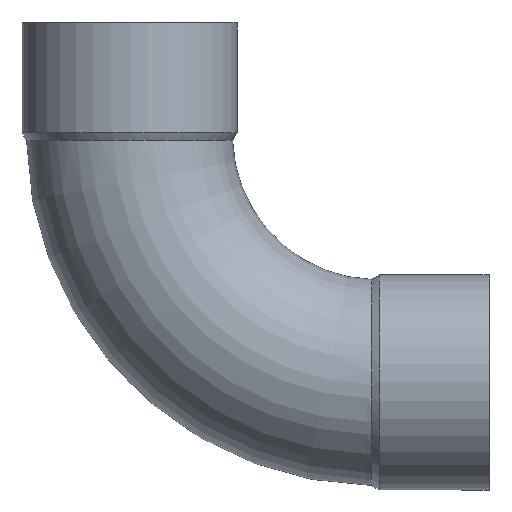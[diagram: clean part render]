
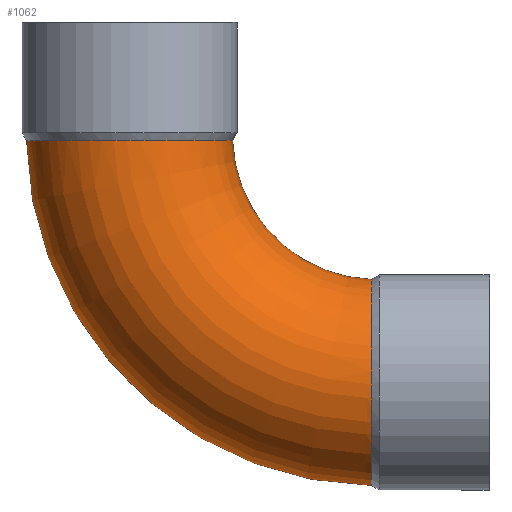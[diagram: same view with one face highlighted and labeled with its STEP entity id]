
A CAD part, front view. The second image highlights one B-rep face of the part: STEP entity #1062.
In plain terms, the highlighted toroidal (fillet/blend) face has major radius 76.8 mm and minor radius 32 mm.
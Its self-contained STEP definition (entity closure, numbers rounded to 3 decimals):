
#49=CARTESIAN_POINT('',(-86.753,0.,-1.621));
#50=VERTEX_POINT('',#49);
#51=CARTESIAN_POINT('',(20.414,0.,-108.788));
#52=VERTEX_POINT('',#51);
#53=CARTESIAN_POINT('',(22.035,0.,0.0));
#54=DIRECTION('',(0.0,-1.0,0.0));
#55=DIRECTION('',(0.0,0.0,-1.0));
#56=AXIS2_PLACEMENT_3D('',#53,#54,#55);
#57=CIRCLE('',#56,108.8);
#58=EDGE_CURVE('',#50,#52,#57,.T.);
#60=CARTESIAN_POINT('',(-22.738,0.,-1.553));
#61=VERTEX_POINT('',#60);
#85=CARTESIAN_POINT('',(20.482,0.,-44.773));
#86=VERTEX_POINT('',#85);
#87=CARTESIAN_POINT('',(22.035,0.,0.0));
#88=DIRECTION('',(0.0,1.0,0.0));
#89=DIRECTION('',(0.0,0.0,-1.0));
#90=AXIS2_PLACEMENT_3D('',#87,#88,#89);
#91=CIRCLE('',#90,44.8);
#92=EDGE_CURVE('',#86,#61,#91,.T.);
#226=CARTESIAN_POINT('',(-22.738,0.,-1.553));
#227=CARTESIAN_POINT('',(-22.738,-0.279,-1.553));
#228=CARTESIAN_POINT('',(-22.742,-0.558,-1.553));
#229=CARTESIAN_POINT('',(-22.858,-5.002,-1.554));
#230=CARTESIAN_POINT('',(-23.78,-9.105,-1.556));
#231=CARTESIAN_POINT('',(-27.145,-16.73,-1.563));
#232=CARTESIAN_POINT('',(-29.557,-20.177,-1.568));
#233=CARTESIAN_POINT('',(-35.568,-25.955,-1.578));
#234=CARTESIAN_POINT('',(-39.109,-28.229,-1.583));
#235=CARTESIAN_POINT('',(-46.863,-31.292,-1.592));
#236=CARTESIAN_POINT('',(-51.002,-32.052,-1.597));
#237=CARTESIAN_POINT('',(-59.338,-31.942,-1.604));
#238=CARTESIAN_POINT('',(-63.455,-31.074,-1.607));
#239=CARTESIAN_POINT('',(-71.123,-27.808,-1.612));
#240=CARTESIAN_POINT('',(-74.602,-25.443,-1.615));
#241=CARTESIAN_POINT('',(-80.456,-19.511,-1.618));
#242=CARTESIAN_POINT('',(-82.775,-16.002,-1.619));
#243=CARTESIAN_POINT('',(-85.939,-8.293,-1.621));
#244=CARTESIAN_POINT('',(-86.753,-4.166,-1.621));
#245=CARTESIAN_POINT('',(-86.753,0.,-1.621));
#246=B_SPLINE_CURVE_WITH_KNOTS('',3,(#226,#227,#228,#229,#230,#231,#232,#233,#234,#235,#236,#237,#238,#239,#240,#241,#242,#243,#244,#245),.UNSPECIFIED.,.F.,.U.,(4,2,2,2,2,2,2,2,2,4),(-10.086,-10.002,-8.752,-7.502,-6.251,-5.,-3.75,-2.5,-1.25,0.0),.UNSPECIFIED.);
#247=EDGE_CURVE('',#61,#50,#246,.T.);
#1029=CARTESIAN_POINT('',(22.035,0.,0.0));
#1030=DIRECTION('',(0.0,-1.0,0.0));
#1031=DIRECTION('',(0.0,0.0,-1.0));
#1032=AXIS2_PLACEMENT_3D('',#1029,#1030,#1031);
#1033=TOROIDAL_SURFACE('',#1032,76.8,32.0);
#1034=ORIENTED_EDGE('',*,*,#58,.T.);
#1035=CARTESIAN_POINT('',(20.414,0.,-108.788));
#1036=CARTESIAN_POINT('',(20.414,-2.359,-108.788));
#1037=CARTESIAN_POINT('',(20.414,-4.711,-108.527));
#1038=CARTESIAN_POINT('',(20.415,-9.314,-107.493));
#1039=CARTESIAN_POINT('',(20.415,-11.552,-106.723));
#1040=CARTESIAN_POINT('',(20.417,-17.451,-103.932));
#1041=CARTESIAN_POINT('',(20.418,-20.834,-101.431));
#1042=CARTESIAN_POINT('',(20.421,-26.45,-95.273));
#1043=CARTESIAN_POINT('',(20.424,-28.63,-91.675));
#1044=CARTESIAN_POINT('',(20.429,-31.489,-83.844));
#1045=CARTESIAN_POINT('',(20.432,-32.139,-79.686));
#1046=CARTESIAN_POINT('',(20.44,-31.811,-71.355));
#1047=CARTESIAN_POINT('',(20.445,-30.834,-67.261));
#1048=CARTESIAN_POINT('',(20.454,-27.367,-59.679));
#1049=CARTESIAN_POINT('',(20.459,-24.91,-56.263));
#1050=CARTESIAN_POINT('',(20.469,-18.827,-50.567));
#1051=CARTESIAN_POINT('',(20.474,-15.259,-48.34));
#1052=CARTESIAN_POINT('',(20.48,-7.732,-45.48));
#1053=CARTESIAN_POINT('',(20.482,-3.881,-44.773));
#1054=CARTESIAN_POINT('',(20.482,0.,-44.773));
#1055=B_SPLINE_CURVE_WITH_KNOTS('',3,(#1035,#1036,#1037,#1038,#1039,#1040,#1041,#1042,#1043,#1044,#1045,#1046,#1047,#1048,#1049,#1050,#1051,#1052,#1053,#1054),.UNSPECIFIED.,.F.,.U.,(4,2,2,2,2,2,2,2,2,4),(-20.169,-19.461,-18.753,-17.503,-16.253,-15.002,-13.752,-12.501,-11.251,-10.086),.UNSPECIFIED.);
#1056=EDGE_CURVE('',#52,#86,#1055,.T.);
#1057=ORIENTED_EDGE('',*,*,#1056,.T.);
#1058=ORIENTED_EDGE('',*,*,#92,.T.);
#1059=ORIENTED_EDGE('',*,*,#247,.T.);
#1060=EDGE_LOOP('',(#1034,#1057,#1058,#1059));
#1061=FACE_OUTER_BOUND('',#1060,.T.);
#1062=ADVANCED_FACE('',(#1061),#1033,.T.);
